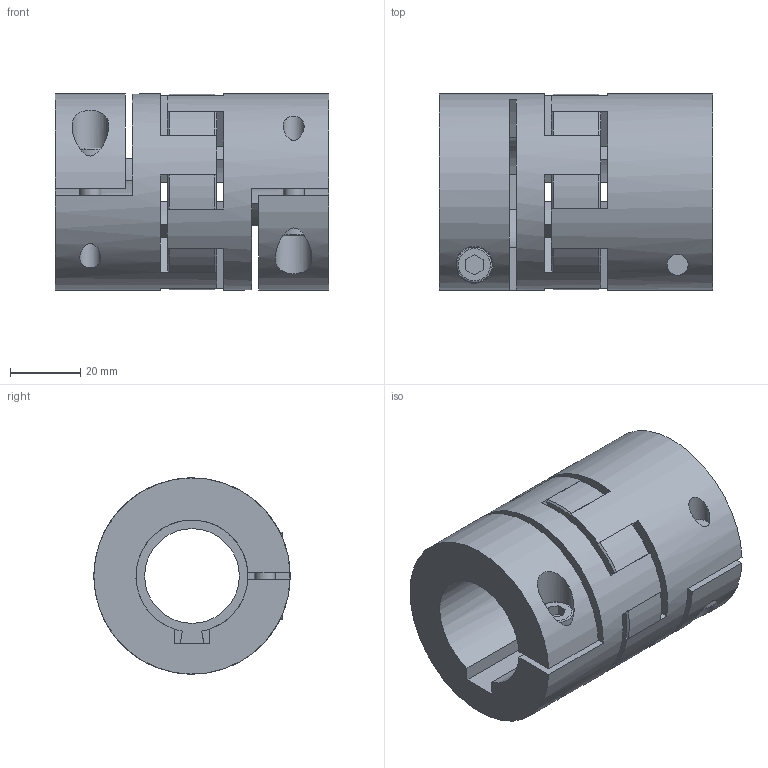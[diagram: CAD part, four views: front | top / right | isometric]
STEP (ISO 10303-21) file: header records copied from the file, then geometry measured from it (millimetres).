
FILE_DESCRIPTION(/* description */ ('STEP AP214'),/* implementation_level */ '2;1');
FILE_NAME(/* name */ 'C:\Diequa Files\DieQua Coupling\EC\STP\EC.60.ABC.#.#.stp',/* time_stamp */ '2018-12-07T10:35:56-06:00',/* author */ ('DiequaCAD'),/* organization */ (''),/* preprocessor_version */ 'ST-DEVELOPER v17.2',/* originating_system */ 'Autodesk Inventor 2019',/* authorisation */ ' ');
FILE_SCHEMA (('AUTOMOTIVE_DESIGN { 1 0 10303 214 3 1 1 }'));
Length unit declared in the file: millimetre
Products named in the file (4): EK2_60_A_32_PFN_32_PFN_2; 2018_11_29__14-48-18-796; 2018_11_29__14-48-18-796_1; 2018_11_29__14-48-18-796_2
Assembly tree (3 placements, depth 2):
  EK2_60_A_32_PFN_32_PFN_2
    2018_11_29__14-48-18-796
    2018_11_29__14-48-18-796_1
    2018_11_29__14-48-18-796_2
Bounding box: 78 x 56 x 56 mm (x, y, z)
Volume: 120190.6 mm3; surface area: 41786.2 mm2
Topology: 3 solids, 3 shells, 141 faces, 407 edges, 278 vertices
Faces by surface type: plane 90, cylinder 33, cone 16, torus 2
Full cylindrical faces by diameter (mm): 6 x4, 6.5 x2, 10 x2, 10.5 x2, 27 x1, 56 x2
Entity records: 5015 total; most frequent: CARTESIAN_POINT 985, DIRECTION 841, ORIENTED_EDGE 814, EDGE_CURVE 407, AXIS2_PLACEMENT_3D 294, VERTEX_POINT 278, LINE 253, VECTOR 253
